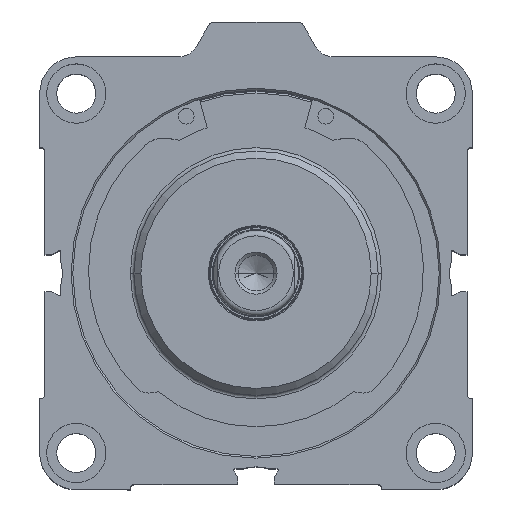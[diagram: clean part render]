
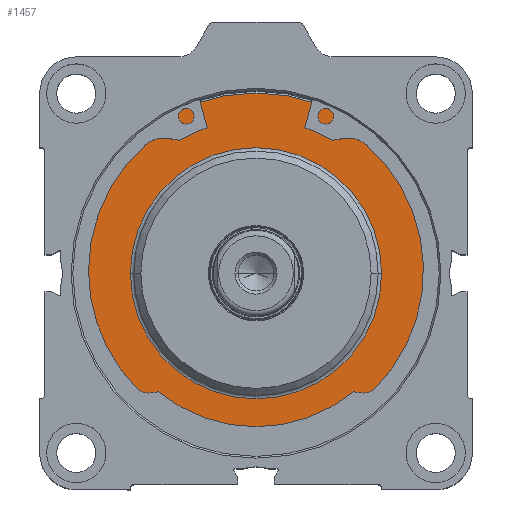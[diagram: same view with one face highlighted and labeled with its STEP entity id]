
A CAD part, top view. The second image highlights one B-rep face of the part: STEP entity #1457.
In plain terms, the highlighted planar face has unit normal (0, 0, 1) as drawn and (-1, 0, 0) by its records, which use the part's own axes.
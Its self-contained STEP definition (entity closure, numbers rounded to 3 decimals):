
#31 = DIRECTION ( 'NONE',  ( -1., 0., 0. ) ) ;
#120 = ORIENTED_EDGE ( 'NONE', *, *, #10998, .T. ) ;
#542 = EDGE_CURVE ( 'NONE', #5784, #9066, #11924, .T. ) ;
#575 = CARTESIAN_POINT ( 'NONE',  ( 7.7, 0., -36. ) ) ;
#737 = FACE_OUTER_BOUND ( 'NONE', #6988, .T. ) ;
#794 = CARTESIAN_POINT ( 'NONE',  ( 7.7, 52.175, 0. ) ) ;
#982 = AXIS2_PLACEMENT_3D ( 'NONE', #794, #7698, #9743 ) ;
#1457 = ADVANCED_FACE ( 'NONE', ( #737, #4602 ), #2727, .F. ) ;
#1741 = DIRECTION ( 'NONE',  ( -1., 0., 0. ) ) ;
#1887 = CARTESIAN_POINT ( 'NONE',  ( 7.7, 0., 36. ) ) ;
#1997 = CARTESIAN_POINT ( 'NONE',  ( 7.7, 0., 0. ) ) ;
#2423 = CIRCLE ( 'NONE', #2583, 51.675 ) ;
#2583 = AXIS2_PLACEMENT_3D ( 'NONE', #1997, #31, #2822 ) ;
#2727 = PLANE ( 'NONE',  #982 ) ;
#2732 = CARTESIAN_POINT ( 'NONE',  ( 7.7, 0., 0. ) ) ;
#2822 = DIRECTION ( 'NONE',  ( 0., 0., -1. ) ) ;
#3410 = DIRECTION ( 'NONE',  ( 0., 0., -1. ) ) ;
#3557 = CIRCLE ( 'NONE', #9379, 36. ) ;
#3807 = ORIENTED_EDGE ( 'NONE', *, *, #5425, .F. ) ;
#4340 = DIRECTION ( 'NONE',  ( -1., 0., 0. ) ) ;
#4602 = FACE_BOUND ( 'NONE', #7213, .T. ) ;
#4690 = AXIS2_PLACEMENT_3D ( 'NONE', #12273, #4340, #3410 ) ;
#5145 = AXIS2_PLACEMENT_3D ( 'NONE', #2732, #10730, #9651 ) ;
#5425 = EDGE_CURVE ( 'NONE', #5866, #12230, #3557, .T. ) ;
#5784 = VERTEX_POINT ( 'NONE', #10969 ) ;
#5866 = VERTEX_POINT ( 'NONE', #575 ) ;
#6988 = EDGE_LOOP ( 'NONE', ( #7138, #120 ) ) ;
#7138 = ORIENTED_EDGE ( 'NONE', *, *, #542, .T. ) ;
#7213 = EDGE_LOOP ( 'NONE', ( #11799, #3807 ) ) ;
#7698 = DIRECTION ( 'NONE',  ( 1., 0., 0. ) ) ;
#8734 = CARTESIAN_POINT ( 'NONE',  ( 7.7, 0., 51.675 ) ) ;
#9066 = VERTEX_POINT ( 'NONE', #8734 ) ;
#9379 = AXIS2_PLACEMENT_3D ( 'NONE', #10798, #1741, #12783 ) ;
#9651 = DIRECTION ( 'NONE',  ( 0., 0., 1. ) ) ;
#9702 = CIRCLE ( 'NONE', #5145, 36. ) ;
#9743 = DIRECTION ( 'NONE',  ( 0., 0., -1. ) ) ;
#10553 = EDGE_CURVE ( 'NONE', #12230, #5866, #9702, .T. ) ;
#10730 = DIRECTION ( 'NONE',  ( -1., 0., 0. ) ) ;
#10798 = CARTESIAN_POINT ( 'NONE',  ( 7.7, 0., 0. ) ) ;
#10969 = CARTESIAN_POINT ( 'NONE',  ( 7.7, 0., -51.675 ) ) ;
#10998 = EDGE_CURVE ( 'NONE', #9066, #5784, #2423, .T. ) ;
#11799 = ORIENTED_EDGE ( 'NONE', *, *, #10553, .F. ) ;
#11924 = CIRCLE ( 'NONE', #4690, 51.675 ) ;
#12230 = VERTEX_POINT ( 'NONE', #1887 ) ;
#12273 = CARTESIAN_POINT ( 'NONE',  ( 7.7, 0., 0. ) ) ;
#12783 = DIRECTION ( 'NONE',  ( 0., 0., 1. ) ) ;
